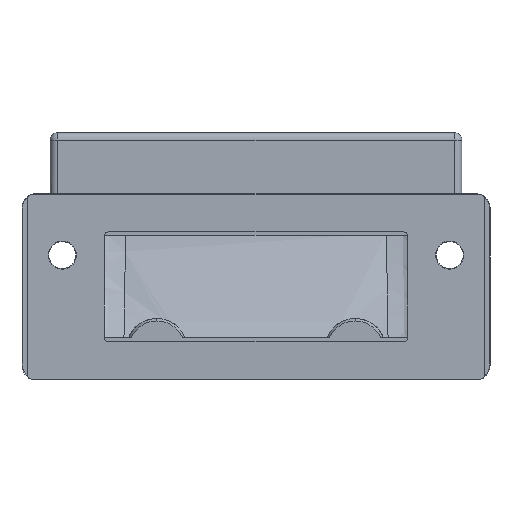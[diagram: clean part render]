
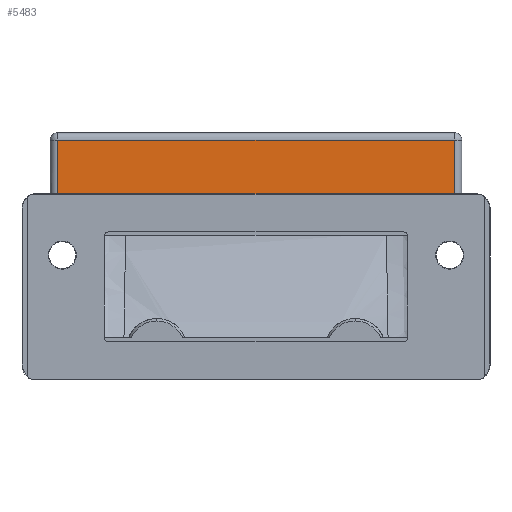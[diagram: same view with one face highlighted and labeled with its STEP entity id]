
A CAD part, front view. The second image highlights one B-rep face of the part: STEP entity #5483.
In plain terms, the highlighted planar face has unit normal (0, -1, 0).
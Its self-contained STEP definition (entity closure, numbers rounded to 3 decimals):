
#214 = ORIENTED_EDGE ( 'NONE', *, *, #11234, .T. ) ;
#372 = CARTESIAN_POINT ( 'NONE',  ( 0., 5., -13.139 ) ) ;
#387 = ORIENTED_EDGE ( 'NONE', *, *, #8975, .T. ) ;
#1077 = LINE ( 'NONE', #15474, #4041 ) ;
#1914 = DIRECTION ( 'NONE',  ( 0., 0., 1. ) ) ;
#2012 = CARTESIAN_POINT ( 'NONE',  ( -42.488, 5., -13.139 ) ) ;
#2519 = CARTESIAN_POINT ( 'NONE',  ( 0., 5., -1.6 ) ) ;
#2639 = CARTESIAN_POINT ( 'NONE',  ( -42.488, 5., -1.6 ) ) ;
#3127 = PLANE ( 'NONE',  #8184 ) ;
#3367 = VERTEX_POINT ( 'NONE', #4853 ) ;
#4041 = VECTOR ( 'NONE', #6328, 1000. ) ;
#4092 = ORIENTED_EDGE ( 'NONE', *, *, #9022, .F. ) ;
#4436 = VERTEX_POINT ( 'NONE', #2012 ) ;
#4853 = CARTESIAN_POINT ( 'NONE',  ( 42.488, 5., -13.139 ) ) ;
#5483 = ADVANCED_FACE ( 'NONE', ( #9697 ), #3127, .F. ) ;
#5790 = DIRECTION ( 'NONE',  ( 0., 1., 0. ) ) ;
#5845 = VECTOR ( 'NONE', #14031, 1000. ) ;
#6328 = DIRECTION ( 'NONE',  ( 0., 0., 1. ) ) ;
#6479 = LINE ( 'NONE', #15629, #8048 ) ;
#6758 = DIRECTION ( 'NONE',  ( 0., 0., -1. ) ) ;
#7494 = ORIENTED_EDGE ( 'NONE', *, *, #9256, .F. ) ;
#7641 = VERTEX_POINT ( 'NONE', #372 ) ;
#8048 = VECTOR ( 'NONE', #11753, 1000. ) ;
#8184 = AXIS2_PLACEMENT_3D ( 'NONE', #15016, #5790, #1914 ) ;
#8271 = VERTEX_POINT ( 'NONE', #8377 ) ;
#8377 = CARTESIAN_POINT ( 'NONE',  ( 42.488, 5., -1.6 ) ) ;
#8975 = EDGE_CURVE ( 'NONE', #8271, #9691, #9903, .T. ) ;
#9022 = EDGE_CURVE ( 'NONE', #7641, #4436, #6479, .T. ) ;
#9256 = EDGE_CURVE ( 'NONE', #3367, #7641, #15605, .T. ) ;
#9691 = VERTEX_POINT ( 'NONE', #2639 ) ;
#9697 = FACE_OUTER_BOUND ( 'NONE', #13898, .T. ) ;
#9716 = LINE ( 'NONE', #9794, #13540 ) ;
#9794 = CARTESIAN_POINT ( 'NONE',  ( -42.488, 5., 0. ) ) ;
#9900 = EDGE_CURVE ( 'NONE', #9691, #4436, #9716, .T. ) ;
#9903 = LINE ( 'NONE', #2519, #5845 ) ;
#10112 = DIRECTION ( 'NONE',  ( -1., 0., 0. ) ) ;
#11234 = EDGE_CURVE ( 'NONE', #3367, #8271, #1077, .T. ) ;
#11753 = DIRECTION ( 'NONE',  ( -1., 0., 0. ) ) ;
#13540 = VECTOR ( 'NONE', #6758, 1000. ) ;
#13898 = EDGE_LOOP ( 'NONE', ( #214, #387, #15421, #4092, #7494 ) ) ;
#14031 = DIRECTION ( 'NONE',  ( -1., 0., 0. ) ) ;
#14078 = CARTESIAN_POINT ( 'NONE',  ( 0., 5., -13.139 ) ) ;
#14627 = VECTOR ( 'NONE', #10112, 1000. ) ;
#15016 = CARTESIAN_POINT ( 'NONE',  ( 0., 5., 0. ) ) ;
#15421 = ORIENTED_EDGE ( 'NONE', *, *, #9900, .T. ) ;
#15474 = CARTESIAN_POINT ( 'NONE',  ( 42.488, 5., 0. ) ) ;
#15605 = LINE ( 'NONE', #14078, #14627 ) ;
#15629 = CARTESIAN_POINT ( 'NONE',  ( 0., 5., -13.139 ) ) ;
